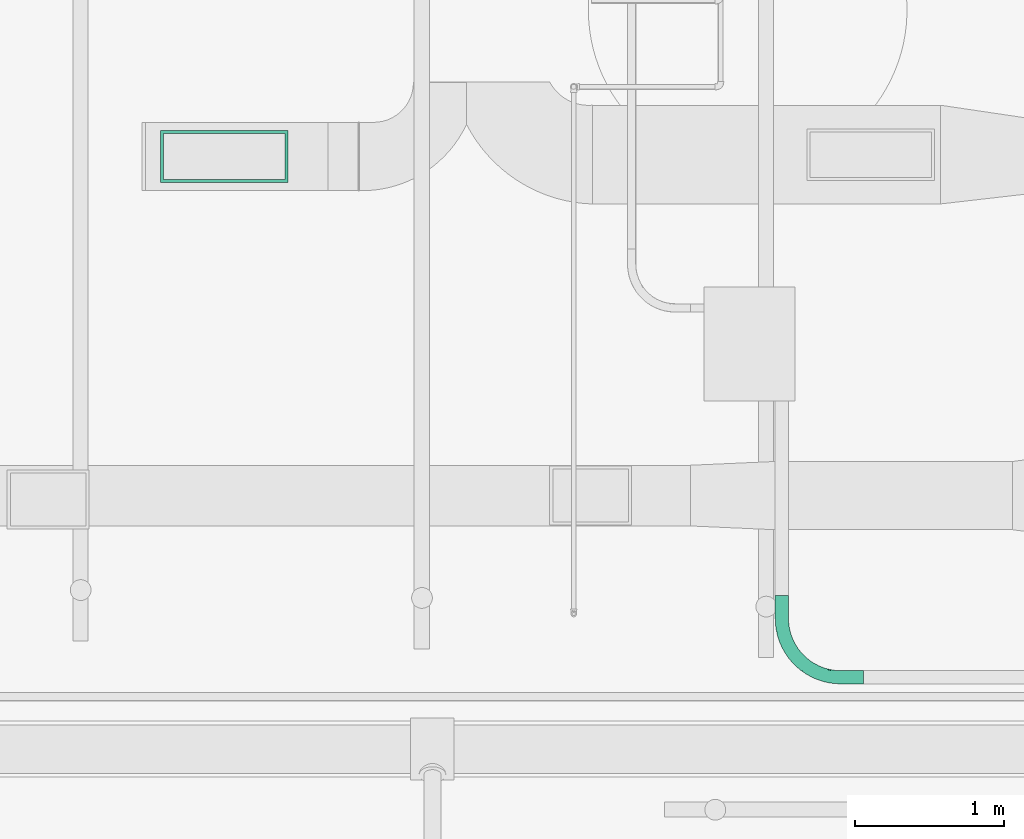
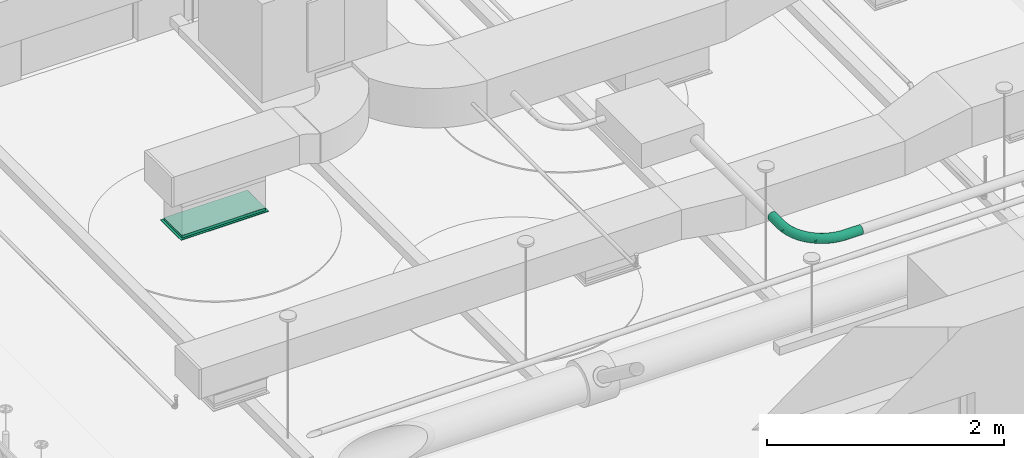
# One storey, part 105 of 108: 1 air terminal, 1 cable carrier fitting.
"""IFC4 building model written with IfcOpenShell, lengths in feet."""

import ifcopenshell
import ifcopenshell.guid

model = None  # the IFC model being written
_history = None  # IfcOwnerHistory: only IFC2X3 demands one
_inside = {}  # id of a spatial element -> (the spatial element, [elements in it])
_under = {}  # id of a project, library or spatial element -> (it, [spatial elements below it])
_declared = {}  # id of a project -> (the project, [libraries it declares])
_typed = {}  # id of a type object -> (the type object, [elements of that type])
_made_of = {}  # id of a material, layer set ... -> (it, [elements and type objects made of it])


def new_model(schema):
    """Start an empty IFC model of exactly this schema.

    Asked for "IFC4X3", IfcOpenShell would pick the latest addendum, in which some entities
    have other attributes; the version numbers below select the first issue.
    IFC2X3 requires an IfcOwnerHistory on every rooted entity: one is made here for all.
    """
    global model, _history
    if schema == "IFC4X3":
        model = ifcopenshell.file(schema_version=(4, 3, 0, 0))
    else:
        model = ifcopenshell.file(schema=schema)
    _inside.clear()
    _under.clear()
    _declared.clear()
    _typed.clear()
    _made_of.clear()
    _history = None
    if model.schema == "IFC2X3":
        org = make("IfcOrganization", Name="unknown")
        user = make(
            "IfcPersonAndOrganization",
            ThePerson=make("IfcPerson", FamilyName="unknown"),
            TheOrganization=org,
        )
        app = make(
            "IfcApplication",
            ApplicationDeveloper=org,
            Version="unknown",
            ApplicationFullName="unknown",
            ApplicationIdentifier="unknown",
        )
        _history = make(
            "IfcOwnerHistory",
            OwningUser=user,
            OwningApplication=app,
            ChangeAction="ADDED",
            CreationDate=0,
        )
    return model


def make(cls, **values):
    """One entity of the class cls with the attributes given. An attribute that is None is left unset."""
    return model.create_entity(
        cls, **{name: value for name, value in values.items() if value is not None}
    )


def entity(cls, *values):
    """Any entity or typed value of the class cls, its attributes in the order of the schema. None: left unset."""
    e = model.create_entity(cls)
    for i, value in enumerate(values):
        if value is not None:
            e[i] = value
    return e


def rooted(cls, **values):
    """An entity with a GlobalId (a new one), such as an element, a storey or a relation."""
    return make(cls, GlobalId=ifcopenshell.guid.new(), OwnerHistory=_history, **values)


def si_unit(unit_type, name, prefix=None):
    """IfcSIUnit, for example si_unit("LENGTHUNIT", "METRE", prefix="MILLI")."""
    return make("IfcSIUnit", UnitType=unit_type, Prefix=prefix, Name=name)


def converted_unit(unit_type, name, factor, base, dimensions=None, offset=None):
    """IfcConversionBasedUnit, such as the inch: factor (a typed value) times the base unit."""
    return make(
        "IfcConversionBasedUnit"
        if offset is None
        else "IfcConversionBasedUnitWithOffset",
        ConversionOffset=offset,
        Dimensions=None
        if dimensions is None
        else entity("IfcDimensionalExponents", *dimensions),
        UnitType=unit_type,
        Name=name,
        ConversionFactor=make(
            "IfcMeasureWithUnit", ValueComponent=factor, UnitComponent=base
        ),
    )


def derived_unit(unit_type, elements):
    """IfcDerivedUnit: a product of units, each with its exponent."""
    return make(
        "IfcDerivedUnit",
        Elements=[
            make("IfcDerivedUnitElement", Unit=unit, Exponent=power)
            for unit, power in elements
        ],
        UnitType=unit_type,
    )


def assignment(units):
    """IfcUnitAssignment: the units of a project."""
    return None if units is None else make("IfcUnitAssignment", Units=units)


def point(xyz):
    """IfcCartesianPoint."""
    return None if xyz is None else make("IfcCartesianPoint", Coordinates=xyz)


def direction(xyz):
    """IfcDirection."""
    return None if xyz is None else make("IfcDirection", DirectionRatios=xyz)


def frame(location, z_axis=None, x_axis=None):
    """IfcAxis2Placement3D, a coordinate frame: its origin and axes. An axis left out is left unset."""
    return make(
        "IfcAxis2Placement3D",
        Location=point(location),
        Axis=direction(z_axis),
        RefDirection=direction(x_axis),
    )


def origin():
    """The frame at (0, 0, 0) with its axes left unset."""
    return frame((0.0, 0.0, 0.0))


def place(relative_to, where):
    """IfcLocalPlacement: puts the frame where relative to a parent placement (None: the world)."""
    return make(
        "IfcLocalPlacement", PlacementRelTo=relative_to, RelativePlacement=where
    )


def context(
    kind, dimensions, precision=None, world=None, true_north=None, identifier=None
):
    """IfcGeometricRepresentationContext, for example the 3D "Model" context."""
    return make(
        "IfcGeometricRepresentationContext",
        ContextIdentifier=identifier,
        ContextType=kind,
        CoordinateSpaceDimension=dimensions,
        Precision=precision,
        WorldCoordinateSystem=world,
        TrueNorth=true_north,
    )


def subcontext(parent, identifier, kind, view, scale=None):
    """IfcGeometricRepresentationSubContext, for example "Body" below "Model"."""
    return make(
        "IfcGeometricRepresentationSubContext",
        ContextIdentifier=identifier,
        ContextType=kind,
        ParentContext=parent,
        TargetScale=scale,
        TargetView=view,
    )


def project(units=None, contexts=None):
    """IfcProject with its units and contexts."""
    return rooted(
        "IfcProject",
        Name="project",
        RepresentationContexts=contexts,
        UnitsInContext=assignment(units),
    )


def spatial(cls, under=None, at=None, **own):
    """A site, building, storey or space (cls), placed at a placement, below another one or the project."""
    s = rooted(cls, ObjectPlacement=at, **own)
    if under is not None:
        _under.setdefault(under.id(), (under, []))[1].append(s)
    return s


def shape(context_of_items, identifier, shape_type, items):
    """IfcShapeRepresentation: the items that make up one representation, for example the "Body"."""
    return make(
        "IfcShapeRepresentation",
        ContextOfItems=context_of_items,
        RepresentationIdentifier=identifier,
        RepresentationType=shape_type,
        Items=items,
    )


def source(mapping_origin, context_of_items, identifier, shape_type, items):
    """IfcRepresentationMap: a shape defined once, which mapped items show again and again."""
    return make(
        "IfcRepresentationMap",
        MappingOrigin=mapping_origin,
        MappedRepresentation=shape(context_of_items, identifier, shape_type, items),
    )


def transform(
    local_origin,
    x_axis=None,
    y_axis=None,
    z_axis=None,
    scale=None,
    scale2=None,
    scale3=None,
    uniform=True,
):
    """IfcCartesianTransformationOperator3D, or its non-uniform kind. x_axis, y_axis, z_axis: its Axis1, 2, 3."""
    if uniform:
        return make(
            "IfcCartesianTransformationOperator3D",
            Axis1=direction(x_axis),
            Axis2=direction(y_axis),
            LocalOrigin=point(local_origin),
            Scale=scale,
            Axis3=direction(z_axis),
        )
    return make(
        "IfcCartesianTransformationOperator3DnonUniform",
        Axis1=direction(x_axis),
        Axis2=direction(y_axis),
        LocalOrigin=point(local_origin),
        Scale=scale,
        Axis3=direction(z_axis),
        Scale2=scale2,
        Scale3=scale3,
    )


def mapped(mapping_source, mapping_target):
    """IfcMappedItem: shows the shape of a source again, moved by a transform."""
    return make(
        "IfcMappedItem", MappingSource=mapping_source, MappingTarget=mapping_target
    )


def made_of(thing, what):
    """Note that an element or type object is made of a material, layer set ...; save() writes the relation."""
    if what is not None:
        _made_of.setdefault(what.id(), (what, []))[1].append(thing)
    return thing


def type_object(cls, material=None, **own):
    """A type object (cls), such as IfcWallType, which elements share."""
    return made_of(rooted(cls, **own), material)


def type_shapes(of_type, sources):
    """Give a type object the sources (RepresentationMaps) that its elements show as mapped items."""
    of_type.RepresentationMaps = sources


def element(
    cls,
    number,
    at=None,
    inside=None,
    cuts=None,
    type_object=None,
    material=None,
    context=None,
    identifier="Body",
    shape_type=None,
    held_by="IfcProductDefinitionShape",
    body=None,
    shapes=None,
    **own,
):
    """One element of the class cls, such as IfcWall. Its Tag is "e" and its number.

    at: its placement. inside: the storey or other place that contains it. cuts: it is an
    opening in that element (IfcRelVoidsElement). A single representation is given by context,
    identifier, shape_type and body (its items); several are given by shapes. held_by: the class
    of the entity that holds the representations. save() writes the other relations.
    """
    e = rooted(cls, Tag="e%d" % number, ObjectPlacement=at, **own)
    if body is not None:
        shapes = [shape(context, identifier, shape_type, body)]
    if shapes is not None:
        e.Representation = make(held_by, Representations=shapes)
    if inside is not None:
        _inside.setdefault(inside.id(), (inside, []))[1].append(e)
    if cuts is not None:
        rooted(
            "IfcRelVoidsElement", RelatingBuildingElement=cuts, RelatedOpeningElement=e
        )
    if type_object is not None:
        _typed.setdefault(type_object.id(), (type_object, []))[1].append(e)
    return made_of(e, material)


def aggregate(whole, parts):
    """IfcRelAggregates: a whole, such as a stair, and the parts it consists of."""
    return rooted("IfcRelAggregates", RelatingObject=whole, RelatedObjects=parts)


def save(model, path):
    """Write the relations noted so far, then the file.

    IfcRelAggregates (storeys below a building ...), IfcRelContainedInSpatialStructure (elements
    in a storey), IfcRelDefinesByType, IfcRelAssociatesMaterial and IfcRelDeclares: one each for
    every whole, place, type object, material and project.
    """
    for whole, parts in _under.values():
        aggregate(whole, parts)
    for where, things in _inside.values():
        rooted(
            "IfcRelContainedInSpatialStructure",
            RelatedElements=things,
            RelatingStructure=where,
        )
    for kind, things in _typed.values():
        rooted("IfcRelDefinesByType", RelatedObjects=things, RelatingType=kind)
    for what, things in _made_of.values():
        rooted("IfcRelAssociatesMaterial", RelatedObjects=things, RelatingMaterial=what)
    for by, libraries in _declared.values():
        rooted("IfcRelDeclares", RelatingContext=by, RelatedDefinitions=libraries)
    model.write(path)


model = new_model("IFC4")

# Units and contexts
model_context = context("Model", 3, precision=0.0001, world=origin(), true_north=direction((6.12303176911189e-17, 1.0)))
body_context = subcontext(model_context, "Body", "Model", "MODEL_VIEW")
ifc_project = project(units=[converted_unit("LENGTHUNIT", "FOOT", entity("IfcRatioMeasure", 0.3048), si_unit("LENGTHUNIT", "METRE"), dimensions=[1, 0, 0, 0, 0, 0, 0]), converted_unit("AREAUNIT", "SQUARE FOOT", entity("IfcRatioMeasure", 0.09290304), si_unit("AREAUNIT", "SQUARE_METRE"), dimensions=[2, 0, 0, 0, 0, 0, 0]), converted_unit("VOLUMEUNIT", "CUBIC FOOT", entity("IfcRatioMeasure", 0.028316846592), si_unit("VOLUMEUNIT", "CUBIC_METRE"), dimensions=[3, 0, 0, 0, 0, 0, 0]), converted_unit("PLANEANGLEUNIT", "DEGREE", entity("IfcRatioMeasure", 0.0174532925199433), si_unit("PLANEANGLEUNIT", "RADIAN"), dimensions=[0, 0, 0, 0, 0, 0, 0]), si_unit("MASSUNIT", "GRAM", prefix="KILO"), derived_unit("MASSDENSITYUNIT", [(si_unit("MASSUNIT", "GRAM", prefix="KILO"), 1), (si_unit("LENGTHUNIT", "METRE"), -3)]), si_unit("TIMEUNIT", "SECOND"), si_unit("FREQUENCYUNIT", "HERTZ"), si_unit("THERMODYNAMICTEMPERATUREUNIT", "DEGREE_CELSIUS"), derived_unit("THERMALTRANSMITTANCEUNIT", [(si_unit("MASSUNIT", "GRAM", prefix="KILO"), 1), (si_unit("THERMODYNAMICTEMPERATUREUNIT", "KELVIN"), -1), (si_unit("TIMEUNIT", "SECOND"), -3)]), derived_unit("VOLUMETRICFLOWRATEUNIT", [(si_unit("LENGTHUNIT", "METRE"), 3), (si_unit("TIMEUNIT", "SECOND"), -1)]), si_unit("ELECTRICCURRENTUNIT", "AMPERE"), si_unit("ELECTRICVOLTAGEUNIT", "VOLT"), si_unit("POWERUNIT", "WATT"), si_unit("FORCEUNIT", "NEWTON"), si_unit("ILLUMINANCEUNIT", "LUX"), si_unit("LUMINOUSFLUXUNIT", "LUMEN"), si_unit("LUMINOUSINTENSITYUNIT", "CANDELA"), derived_unit("USERDEFINED", [(si_unit("MASSUNIT", "GRAM", prefix="KILO"), -1), (si_unit("LENGTHUNIT", "METRE"), -2), (si_unit("TIMEUNIT", "SECOND"), 3), (si_unit("LUMINOUSFLUXUNIT", "LUMEN"), 1)]), derived_unit("LINEARVELOCITYUNIT", [(si_unit("LENGTHUNIT", "METRE"), 1), (si_unit("TIMEUNIT", "SECOND"), -1)]), si_unit("PRESSUREUNIT", "PASCAL"), derived_unit("USERDEFINED", [(si_unit("LENGTHUNIT", "METRE"), -2), (si_unit("MASSUNIT", "GRAM", prefix="KILO"), 1), (si_unit("TIMEUNIT", "SECOND"), -2)])], contexts=[model_context])

# Site, building, storey
site_placement = place(None, origin())
site = spatial("IfcSite", under=ifc_project, at=site_placement, Name="Default", CompositionType="ELEMENT")
building_placement = place(site_placement, origin())
building = spatial("IfcBuilding", under=site, at=building_placement, CompositionType="ELEMENT")
storey_placement = place(building_placement, frame((0.0, 0.0, 168.0)))
storey = spatial("IfcBuildingStorey", under=building, at=storey_placement, Name="Level 15", CompositionType="ELEMENT", Elevation=168.0)

# Air terminal
air_terminal_type = type_object("IfcAirTerminalType", Name="32x12", PredefinedType="NOTDEFINED")
cartesian_point_1 = entity("IfcCartesianPoint", [1.40104166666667, 0.015625, 0.567708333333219])
vertex_point_1 = entity("IfcVertexPoint", cartesian_point_1)
cartesian_point_2 = entity("IfcCartesianPoint", [1.40104166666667, 0.015625, -0.567708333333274])
vertex_point_2 = entity("IfcVertexPoint", cartesian_point_2)
ifc_direction_1 = entity("IfcDirection", [0.0, 0.0, -1.0])
edge_curve_1 = entity("IfcEdgeCurve", vertex_point_1, vertex_point_2, entity("IfcTrimmedCurve", entity("IfcLine", cartesian_point_1, entity("IfcVector", ifc_direction_1, 1.0)), [cartesian_point_1], [cartesian_point_2], True, "CARTESIAN"), True)
cartesian_point_3 = entity("IfcCartesianPoint", [-1.40104166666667, 0.015625, -0.567708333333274])
vertex_point_3 = entity("IfcVertexPoint", cartesian_point_3)
ifc_direction_2 = entity("IfcDirection", [-1.0, 0.0, 0.0])
edge_curve_2 = entity("IfcEdgeCurve", vertex_point_2, vertex_point_3, entity("IfcTrimmedCurve", entity("IfcLine", cartesian_point_2, entity("IfcVector", ifc_direction_2, 1.0)), [cartesian_point_2], [cartesian_point_3], True, "CARTESIAN"), True)
cartesian_point_4 = entity("IfcCartesianPoint", [-1.40104166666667, 0.015625, 0.567708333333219])
vertex_point_4 = entity("IfcVertexPoint", cartesian_point_4)
ifc_direction_3 = entity("IfcDirection", [0.0, 0.0, 1.0])
edge_curve_3 = entity("IfcEdgeCurve", vertex_point_3, vertex_point_4, entity("IfcTrimmedCurve", entity("IfcLine", cartesian_point_3, entity("IfcVector", ifc_direction_3, 1.0)), [cartesian_point_3], [cartesian_point_4], True, "CARTESIAN"), True)
ifc_direction_4 = entity("IfcDirection", [1.0, 0.0, 0.0])
edge_curve_4 = entity("IfcEdgeCurve", vertex_point_4, vertex_point_1, entity("IfcTrimmedCurve", entity("IfcLine", cartesian_point_4, entity("IfcVector", ifc_direction_4, 1.0)), [cartesian_point_4], [cartesian_point_1], True, "CARTESIAN"), True)
ifc_direction_5 = entity("IfcDirection", [0.0, 1.0, 0.0])
cartesian_point_5 = entity("IfcCartesianPoint", [1.40104166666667, 0.0, 0.567708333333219])
vertex_point_5 = entity("IfcVertexPoint", cartesian_point_5)
cartesian_point_6 = entity("IfcCartesianPoint", [-1.40104166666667, 0.0, 0.567708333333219])
vertex_point_6 = entity("IfcVertexPoint", cartesian_point_6)
edge_curve_5 = entity("IfcEdgeCurve", vertex_point_5, vertex_point_6, entity("IfcTrimmedCurve", entity("IfcLine", cartesian_point_5, entity("IfcVector", ifc_direction_2, 1.0)), [cartesian_point_5], [cartesian_point_6], True, "CARTESIAN"), True)
cartesian_point_7 = entity("IfcCartesianPoint", [-1.40104166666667, 0.0, -0.567708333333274])
vertex_point_7 = entity("IfcVertexPoint", cartesian_point_7)
edge_curve_6 = entity("IfcEdgeCurve", vertex_point_6, vertex_point_7, entity("IfcTrimmedCurve", entity("IfcLine", cartesian_point_6, entity("IfcVector", ifc_direction_1, 1.0)), [cartesian_point_6], [cartesian_point_7], True, "CARTESIAN"), True)
cartesian_point_8 = entity("IfcCartesianPoint", [1.40104166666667, 0.0, -0.567708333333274])
vertex_point_8 = entity("IfcVertexPoint", cartesian_point_8)
edge_curve_7 = entity("IfcEdgeCurve", vertex_point_7, vertex_point_8, entity("IfcTrimmedCurve", entity("IfcLine", cartesian_point_7, entity("IfcVector", ifc_direction_4, 1.0)), [cartesian_point_7], [cartesian_point_8], True, "CARTESIAN"), True)
edge_curve_8 = entity("IfcEdgeCurve", vertex_point_8, vertex_point_5, entity("IfcTrimmedCurve", entity("IfcLine", cartesian_point_8, entity("IfcVector", ifc_direction_3, 1.0)), [cartesian_point_8], [cartesian_point_5], True, "CARTESIAN"), True)
cartesian_point_9 = entity("IfcCartesianPoint", [-1.33333333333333, 0.0, 0.5])
vertex_point_9 = entity("IfcVertexPoint", cartesian_point_9)
cartesian_point_10 = entity("IfcCartesianPoint", [1.33333333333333, 0.0, 0.5])
vertex_point_10 = entity("IfcVertexPoint", cartesian_point_10)
edge_curve_9 = entity("IfcEdgeCurve", vertex_point_9, vertex_point_10, entity("IfcTrimmedCurve", entity("IfcLine", cartesian_point_9, entity("IfcVector", ifc_direction_4, 1.0)), [cartesian_point_9], [cartesian_point_10], True, "CARTESIAN"), True)
cartesian_point_11 = entity("IfcCartesianPoint", [1.33333333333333, 0.0, -0.5])
vertex_point_11 = entity("IfcVertexPoint", cartesian_point_11)
edge_curve_10 = entity("IfcEdgeCurve", vertex_point_10, vertex_point_11, entity("IfcTrimmedCurve", entity("IfcLine", cartesian_point_10, entity("IfcVector", ifc_direction_1, 1.0)), [cartesian_point_10], [cartesian_point_11], True, "CARTESIAN"), True)
cartesian_point_12 = entity("IfcCartesianPoint", [-1.33333333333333, 0.0, -0.5])
vertex_point_12 = entity("IfcVertexPoint", cartesian_point_12)
edge_curve_11 = entity("IfcEdgeCurve", vertex_point_11, vertex_point_12, entity("IfcTrimmedCurve", entity("IfcLine", cartesian_point_11, entity("IfcVector", ifc_direction_2, 1.0)), [cartesian_point_11], [cartesian_point_12], True, "CARTESIAN"), True)
edge_curve_12 = entity("IfcEdgeCurve", vertex_point_12, vertex_point_9, entity("IfcTrimmedCurve", entity("IfcLine", cartesian_point_12, entity("IfcVector", ifc_direction_3, 1.0)), [cartesian_point_12], [cartesian_point_9], True, "CARTESIAN"), True)
ifc_direction_6 = entity("IfcDirection", [0.0, -1.0, 0.0])
edge_curve_13 = entity("IfcEdgeCurve", vertex_point_4, vertex_point_6, entity("IfcTrimmedCurve", entity("IfcLine", cartesian_point_6, entity("IfcVector", ifc_direction_6, 1.0)), [cartesian_point_4], [cartesian_point_6], True, "CARTESIAN"), True)
edge_curve_14 = entity("IfcEdgeCurve", vertex_point_5, vertex_point_1, entity("IfcTrimmedCurve", entity("IfcLine", cartesian_point_5, entity("IfcVector", ifc_direction_5, 1.0)), [cartesian_point_5], [cartesian_point_1], True, "CARTESIAN"), True)
edge_curve_15 = entity("IfcEdgeCurve", vertex_point_3, vertex_point_7, entity("IfcTrimmedCurve", entity("IfcLine", cartesian_point_7, entity("IfcVector", ifc_direction_6, 1.0)), [cartesian_point_3], [cartesian_point_7], True, "CARTESIAN"), True)
edge_curve_16 = entity("IfcEdgeCurve", vertex_point_2, vertex_point_8, entity("IfcTrimmedCurve", entity("IfcLine", cartesian_point_8, entity("IfcVector", ifc_direction_6, 1.0)), [cartesian_point_2], [cartesian_point_8], True, "CARTESIAN"), True)
cartesian_point_13 = entity("IfcCartesianPoint", [-1.33333333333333, -0.08984375, 0.5])
vertex_point_13 = entity("IfcVertexPoint", cartesian_point_13)
cartesian_point_14 = entity("IfcCartesianPoint", [-1.33333333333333, -0.08984375, -0.5])
vertex_point_14 = entity("IfcVertexPoint", cartesian_point_14)
edge_curve_17 = entity("IfcEdgeCurve", vertex_point_13, vertex_point_14, entity("IfcTrimmedCurve", entity("IfcLine", cartesian_point_13, entity("IfcVector", ifc_direction_1, 1.0)), [cartesian_point_13], [cartesian_point_14], True, "CARTESIAN"), True)
cartesian_point_15 = entity("IfcCartesianPoint", [1.33333333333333, -0.08984375, -0.5])
vertex_point_15 = entity("IfcVertexPoint", cartesian_point_15)
edge_curve_18 = entity("IfcEdgeCurve", vertex_point_14, vertex_point_15, entity("IfcTrimmedCurve", entity("IfcLine", cartesian_point_14, entity("IfcVector", ifc_direction_4, 1.0)), [cartesian_point_14], [cartesian_point_15], True, "CARTESIAN"), True)
cartesian_point_16 = entity("IfcCartesianPoint", [1.33333333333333, -0.08984375, 0.5])
vertex_point_16 = entity("IfcVertexPoint", cartesian_point_16)
edge_curve_19 = entity("IfcEdgeCurve", vertex_point_15, vertex_point_16, entity("IfcTrimmedCurve", entity("IfcLine", cartesian_point_15, entity("IfcVector", ifc_direction_3, 1.0)), [cartesian_point_15], [cartesian_point_16], True, "CARTESIAN"), True)
edge_curve_20 = entity("IfcEdgeCurve", vertex_point_16, vertex_point_13, entity("IfcTrimmedCurve", entity("IfcLine", cartesian_point_16, entity("IfcVector", ifc_direction_2, 1.0)), [cartesian_point_16], [cartesian_point_13], True, "CARTESIAN"), True)
cartesian_point_17 = entity("IfcCartesianPoint", [-1.3125, -0.08984375, 0.479166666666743])
vertex_point_17 = entity("IfcVertexPoint", cartesian_point_17)
cartesian_point_18 = entity("IfcCartesianPoint", [1.3125, -0.08984375, 0.479166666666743])
vertex_point_18 = entity("IfcVertexPoint", cartesian_point_18)
edge_curve_21 = entity("IfcEdgeCurve", vertex_point_17, vertex_point_18, entity("IfcTrimmedCurve", entity("IfcLine", cartesian_point_17, entity("IfcVector", ifc_direction_4, 1.0)), [cartesian_point_17], [cartesian_point_18], True, "CARTESIAN"), True)
cartesian_point_19 = entity("IfcCartesianPoint", [1.3125, -0.08984375, -0.479166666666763])
vertex_point_19 = entity("IfcVertexPoint", cartesian_point_19)
edge_curve_22 = entity("IfcEdgeCurve", vertex_point_18, vertex_point_19, entity("IfcTrimmedCurve", entity("IfcLine", cartesian_point_18, entity("IfcVector", ifc_direction_1, 1.0)), [cartesian_point_18], [cartesian_point_19], True, "CARTESIAN"), True)
cartesian_point_20 = entity("IfcCartesianPoint", [-1.3125, -0.08984375, -0.479166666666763])
vertex_point_20 = entity("IfcVertexPoint", cartesian_point_20)
edge_curve_23 = entity("IfcEdgeCurve", vertex_point_19, vertex_point_20, entity("IfcTrimmedCurve", entity("IfcLine", cartesian_point_19, entity("IfcVector", ifc_direction_2, 1.0)), [cartesian_point_19], [cartesian_point_20], True, "CARTESIAN"), True)
edge_curve_24 = entity("IfcEdgeCurve", vertex_point_20, vertex_point_17, entity("IfcTrimmedCurve", entity("IfcLine", cartesian_point_20, entity("IfcVector", ifc_direction_3, 1.0)), [cartesian_point_20], [cartesian_point_17], True, "CARTESIAN"), True)
edge_curve_25 = entity("IfcEdgeCurve", vertex_point_13, vertex_point_9, entity("IfcTrimmedCurve", entity("IfcLine", cartesian_point_13, entity("IfcVector", ifc_direction_5, 1.0)), [cartesian_point_13], [cartesian_point_9], True, "CARTESIAN"), True)
edge_curve_26 = entity("IfcEdgeCurve", vertex_point_12, vertex_point_14, entity("IfcTrimmedCurve", entity("IfcLine", cartesian_point_14, entity("IfcVector", ifc_direction_6, 1.0)), [cartesian_point_12], [cartesian_point_14], True, "CARTESIAN"), True)
edge_curve_27 = entity("IfcEdgeCurve", vertex_point_11, vertex_point_15, entity("IfcTrimmedCurve", entity("IfcLine", cartesian_point_15, entity("IfcVector", ifc_direction_6, 1.0)), [cartesian_point_11], [cartesian_point_15], True, "CARTESIAN"), True)
edge_curve_28 = entity("IfcEdgeCurve", vertex_point_10, vertex_point_16, entity("IfcTrimmedCurve", entity("IfcLine", cartesian_point_16, entity("IfcVector", ifc_direction_6, 1.0)), [cartesian_point_10], [cartesian_point_16], True, "CARTESIAN"), True)
cartesian_point_21 = entity("IfcCartesianPoint", [-1.3125, -0.0911458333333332, 0.479166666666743])
vertex_point_21 = entity("IfcVertexPoint", cartesian_point_21)
cartesian_point_22 = entity("IfcCartesianPoint", [-1.3125, -0.0911458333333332, -0.479166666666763])
vertex_point_22 = entity("IfcVertexPoint", cartesian_point_22)
edge_curve_29 = entity("IfcEdgeCurve", vertex_point_21, vertex_point_22, entity("IfcTrimmedCurve", entity("IfcLine", cartesian_point_21, entity("IfcVector", ifc_direction_1, 1.0)), [cartesian_point_21], [cartesian_point_22], True, "CARTESIAN"), True)
cartesian_point_23 = entity("IfcCartesianPoint", [1.3125, -0.0911458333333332, -0.479166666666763])
vertex_point_23 = entity("IfcVertexPoint", cartesian_point_23)
edge_curve_30 = entity("IfcEdgeCurve", vertex_point_22, vertex_point_23, entity("IfcTrimmedCurve", entity("IfcLine", cartesian_point_22, entity("IfcVector", ifc_direction_4, 1.0)), [cartesian_point_22], [cartesian_point_23], True, "CARTESIAN"), True)
cartesian_point_24 = entity("IfcCartesianPoint", [1.3125, -0.0911458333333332, 0.479166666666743])
vertex_point_24 = entity("IfcVertexPoint", cartesian_point_24)
edge_curve_31 = entity("IfcEdgeCurve", vertex_point_23, vertex_point_24, entity("IfcTrimmedCurve", entity("IfcLine", cartesian_point_23, entity("IfcVector", ifc_direction_3, 1.0)), [cartesian_point_23], [cartesian_point_24], True, "CARTESIAN"), True)
edge_curve_32 = entity("IfcEdgeCurve", vertex_point_24, vertex_point_21, entity("IfcTrimmedCurve", entity("IfcLine", cartesian_point_24, entity("IfcVector", ifc_direction_2, 1.0)), [cartesian_point_24], [cartesian_point_21], True, "CARTESIAN"), True)
edge_curve_33 = entity("IfcEdgeCurve", vertex_point_21, vertex_point_17, entity("IfcTrimmedCurve", entity("IfcLine", cartesian_point_21, entity("IfcVector", ifc_direction_5, 1.0)), [cartesian_point_21], [cartesian_point_17], True, "CARTESIAN"), True)
edge_curve_34 = entity("IfcEdgeCurve", vertex_point_20, vertex_point_22, entity("IfcTrimmedCurve", entity("IfcLine", cartesian_point_22, entity("IfcVector", ifc_direction_6, 1.0)), [cartesian_point_20], [cartesian_point_22], True, "CARTESIAN"), True)
edge_curve_35 = entity("IfcEdgeCurve", vertex_point_19, vertex_point_23, entity("IfcTrimmedCurve", entity("IfcLine", cartesian_point_23, entity("IfcVector", ifc_direction_6, 1.0)), [cartesian_point_19], [cartesian_point_23], True, "CARTESIAN"), True)
edge_curve_36 = entity("IfcEdgeCurve", vertex_point_18, vertex_point_24, entity("IfcTrimmedCurve", entity("IfcLine", cartesian_point_24, entity("IfcVector", ifc_direction_6, 1.0)), [cartesian_point_18], [cartesian_point_24], True, "CARTESIAN"), True)
shared_shape_1 = source(origin(), body_context, "Body", "AdvancedBrep", [
    entity("IfcAdvancedBrep", entity("IfcClosedShell", [entity("IfcAdvancedFace", [entity("IfcFaceOuterBound", entity("IfcEdgeLoop", [entity("IfcOrientedEdge", None, None, edge_curve_1, True), entity("IfcOrientedEdge", None, None, edge_curve_2, True), entity("IfcOrientedEdge", None, None, edge_curve_3, True), entity("IfcOrientedEdge", None, None, edge_curve_4, True)]), True)], entity("IfcPlane", entity("IfcAxis2Placement3D", cartesian_point_4, ifc_direction_5, ifc_direction_2)), True), entity("IfcAdvancedFace", [entity("IfcFaceOuterBound", entity("IfcEdgeLoop", [entity("IfcOrientedEdge", None, None, edge_curve_5, True), entity("IfcOrientedEdge", None, None, edge_curve_6, True), entity("IfcOrientedEdge", None, None, edge_curve_7, True), entity("IfcOrientedEdge", None, None, edge_curve_8, True)]), True), entity("IfcFaceBound", entity("IfcEdgeLoop", [entity("IfcOrientedEdge", None, None, edge_curve_9, True), entity("IfcOrientedEdge", None, None, edge_curve_10, True), entity("IfcOrientedEdge", None, None, edge_curve_11, True), entity("IfcOrientedEdge", None, None, edge_curve_12, True)]), False)], entity("IfcPlane", entity("IfcAxis2Placement3D", cartesian_point_6, ifc_direction_6, ifc_direction_4)), True), entity("IfcAdvancedFace", [entity("IfcFaceOuterBound", entity("IfcEdgeLoop", [entity("IfcOrientedEdge", None, None, edge_curve_13, True), entity("IfcOrientedEdge", None, None, edge_curve_5, False), entity("IfcOrientedEdge", None, None, edge_curve_14, True), entity("IfcOrientedEdge", None, None, edge_curve_4, False)]), True)], entity("IfcPlane", entity("IfcAxis2Placement3D", cartesian_point_1, ifc_direction_3, ifc_direction_6)), True), entity("IfcAdvancedFace", [entity("IfcFaceOuterBound", entity("IfcEdgeLoop", [entity("IfcOrientedEdge", None, None, edge_curve_15, True), entity("IfcOrientedEdge", None, None, edge_curve_6, False), entity("IfcOrientedEdge", None, None, edge_curve_13, False), entity("IfcOrientedEdge", None, None, edge_curve_3, False)]), True)], entity("IfcPlane", entity("IfcAxis2Placement3D", cartesian_point_4, ifc_direction_2, ifc_direction_6)), True), entity("IfcAdvancedFace", [entity("IfcFaceOuterBound", entity("IfcEdgeLoop", [entity("IfcOrientedEdge", None, None, edge_curve_16, True), entity("IfcOrientedEdge", None, None, edge_curve_7, False), entity("IfcOrientedEdge", None, None, edge_curve_15, False), entity("IfcOrientedEdge", None, None, edge_curve_2, False)]), True)], entity("IfcPlane", entity("IfcAxis2Placement3D", cartesian_point_3, ifc_direction_1, ifc_direction_6)), True), entity("IfcAdvancedFace", [entity("IfcFaceOuterBound", entity("IfcEdgeLoop", [entity("IfcOrientedEdge", None, None, edge_curve_14, False), entity("IfcOrientedEdge", None, None, edge_curve_8, False), entity("IfcOrientedEdge", None, None, edge_curve_16, False), entity("IfcOrientedEdge", None, None, edge_curve_1, False)]), True)], entity("IfcPlane", entity("IfcAxis2Placement3D", cartesian_point_2, ifc_direction_4, ifc_direction_6)), True), entity("IfcAdvancedFace", [entity("IfcFaceOuterBound", entity("IfcEdgeLoop", [entity("IfcOrientedEdge", None, None, edge_curve_17, True), entity("IfcOrientedEdge", None, None, edge_curve_18, True), entity("IfcOrientedEdge", None, None, edge_curve_19, True), entity("IfcOrientedEdge", None, None, edge_curve_20, True)]), True), entity("IfcFaceBound", entity("IfcEdgeLoop", [entity("IfcOrientedEdge", None, None, edge_curve_21, True), entity("IfcOrientedEdge", None, None, edge_curve_22, True), entity("IfcOrientedEdge", None, None, edge_curve_23, True), entity("IfcOrientedEdge", None, None, edge_curve_24, True)]), False)], entity("IfcPlane", entity("IfcAxis2Placement3D", cartesian_point_13, ifc_direction_6, ifc_direction_3)), True), entity("IfcAdvancedFace", [entity("IfcFaceOuterBound", entity("IfcEdgeLoop", [entity("IfcOrientedEdge", None, None, edge_curve_25, True), entity("IfcOrientedEdge", None, None, edge_curve_12, False), entity("IfcOrientedEdge", None, None, edge_curve_26, True), entity("IfcOrientedEdge", None, None, edge_curve_17, False)]), True)], entity("IfcPlane", entity("IfcAxis2Placement3D", cartesian_point_9, ifc_direction_2, ifc_direction_6)), True), entity("IfcAdvancedFace", [entity("IfcFaceOuterBound", entity("IfcEdgeLoop", [entity("IfcOrientedEdge", None, None, edge_curve_26, False), entity("IfcOrientedEdge", None, None, edge_curve_11, False), entity("IfcOrientedEdge", None, None, edge_curve_27, True), entity("IfcOrientedEdge", None, None, edge_curve_18, False)]), True)], entity("IfcPlane", entity("IfcAxis2Placement3D", cartesian_point_12, ifc_direction_1, ifc_direction_6)), True), entity("IfcAdvancedFace", [entity("IfcFaceOuterBound", entity("IfcEdgeLoop", [entity("IfcOrientedEdge", None, None, edge_curve_27, False), entity("IfcOrientedEdge", None, None, edge_curve_10, False), entity("IfcOrientedEdge", None, None, edge_curve_28, True), entity("IfcOrientedEdge", None, None, edge_curve_19, False)]), True)], entity("IfcPlane", entity("IfcAxis2Placement3D", cartesian_point_11, ifc_direction_4, ifc_direction_6)), True), entity("IfcAdvancedFace", [entity("IfcFaceOuterBound", entity("IfcEdgeLoop", [entity("IfcOrientedEdge", None, None, edge_curve_28, False), entity("IfcOrientedEdge", None, None, edge_curve_9, False), entity("IfcOrientedEdge", None, None, edge_curve_25, False), entity("IfcOrientedEdge", None, None, edge_curve_20, False)]), True)], entity("IfcPlane", entity("IfcAxis2Placement3D", cartesian_point_10, ifc_direction_3, ifc_direction_6)), True), entity("IfcAdvancedFace", [entity("IfcFaceOuterBound", entity("IfcEdgeLoop", [entity("IfcOrientedEdge", None, None, edge_curve_29, True), entity("IfcOrientedEdge", None, None, edge_curve_30, True), entity("IfcOrientedEdge", None, None, edge_curve_31, True), entity("IfcOrientedEdge", None, None, edge_curve_32, True)]), True)], entity("IfcPlane", entity("IfcAxis2Placement3D", cartesian_point_21, ifc_direction_6, ifc_direction_3)), True), entity("IfcAdvancedFace", [entity("IfcFaceOuterBound", entity("IfcEdgeLoop", [entity("IfcOrientedEdge", None, None, edge_curve_33, True), entity("IfcOrientedEdge", None, None, edge_curve_24, False), entity("IfcOrientedEdge", None, None, edge_curve_34, True), entity("IfcOrientedEdge", None, None, edge_curve_29, False)]), True)], entity("IfcPlane", entity("IfcAxis2Placement3D", cartesian_point_17, ifc_direction_2, ifc_direction_6)), True), entity("IfcAdvancedFace", [entity("IfcFaceOuterBound", entity("IfcEdgeLoop", [entity("IfcOrientedEdge", None, None, edge_curve_34, False), entity("IfcOrientedEdge", None, None, edge_curve_23, False), entity("IfcOrientedEdge", None, None, edge_curve_35, True), entity("IfcOrientedEdge", None, None, edge_curve_30, False)]), True)], entity("IfcPlane", entity("IfcAxis2Placement3D", cartesian_point_20, ifc_direction_1, ifc_direction_6)), True), entity("IfcAdvancedFace", [entity("IfcFaceOuterBound", entity("IfcEdgeLoop", [entity("IfcOrientedEdge", None, None, edge_curve_35, False), entity("IfcOrientedEdge", None, None, edge_curve_22, False), entity("IfcOrientedEdge", None, None, edge_curve_36, True), entity("IfcOrientedEdge", None, None, edge_curve_31, False)]), True)], entity("IfcPlane", entity("IfcAxis2Placement3D", cartesian_point_19, ifc_direction_4, ifc_direction_6)), True), entity("IfcAdvancedFace", [entity("IfcFaceOuterBound", entity("IfcEdgeLoop", [entity("IfcOrientedEdge", None, None, edge_curve_36, False), entity("IfcOrientedEdge", None, None, edge_curve_21, False), entity("IfcOrientedEdge", None, None, edge_curve_33, False), entity("IfcOrientedEdge", None, None, edge_curve_32, False)]), True)], entity("IfcPlane", entity("IfcAxis2Placement3D", cartesian_point_18, ifc_direction_3, ifc_direction_6)), True)])),
])
type_shapes(air_terminal_type, [shared_shape_1])
air_terminal_placement = place(storey_placement, frame((-44.4096196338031, -3.73329294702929, 8.5625), z_axis=(0.0, 1.0, 0.0), x_axis=(1.0, 0.0, 0.0)))
element("IfcAirTerminal", 1, at=air_terminal_placement, inside=storey, type_object=air_terminal_type, Name="Supply Diffuser - Sidewall:32x12", ObjectType="Supply Diffuser - Sidewall:32x12", PredefinedType="NOTDEFINED", context=body_context, shape_type="MappedRepresentation", body=[
    mapped(shared_shape_1, transform((0.0, 0.0, 0.0), scale=1.0)),
])

# Cable carrier fitting
cable_carrier_fitting_type = type_object("IfcCableCarrierFittingType", Name="Standard", PredefinedType="NOTDEFINED")
cartesian_point_25 = entity("IfcCartesianPoint", [-1.79166666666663, -0.145833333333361, 0.0])
vertex_point_25 = entity("IfcVertexPoint", cartesian_point_25)
cartesian_point_26 = entity("IfcCartesianPoint", [-1.79166666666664, 0.145833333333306, 0.0])
vertex_point_26 = entity("IfcVertexPoint", cartesian_point_26)
cartesian_point_27 = entity("IfcCartesianPoint", [-1.79166666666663, 0.0, 0.0])
ifc_direction_7 = entity("IfcDirection", [-1.0, 0.0, 0.0])
ifc_direction_8 = entity("IfcDirection", [0.0, 1.0, 0.0])
edge_curve_37 = entity("IfcEdgeCurve", vertex_point_25, vertex_point_26, entity("IfcTrimmedCurve", entity("IfcCircle", entity("IfcAxis2Placement3D", cartesian_point_27, ifc_direction_7, ifc_direction_8), 0.145833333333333), [cartesian_point_25], [cartesian_point_26], True, "CARTESIAN"), True)
edge_curve_38 = entity("IfcEdgeCurve", vertex_point_26, vertex_point_25, entity("IfcTrimmedCurve", entity("IfcCircle", entity("IfcAxis2Placement3D", cartesian_point_27, ifc_direction_7, ifc_direction_8), 0.145833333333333), [cartesian_point_26], [cartesian_point_25], True, "CARTESIAN"), True)
ifc_direction_9 = entity("IfcDirection", [0.0, 0.0, 1.0])
cartesian_point_28 = entity("IfcCartesianPoint", [-1.29166666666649, -0.145833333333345, 0.0])
vertex_point_27 = entity("IfcVertexPoint", cartesian_point_28)
edge_curve_39 = entity("IfcEdgeCurve", vertex_point_25, vertex_point_27, entity("IfcTrimmedCurve", entity("IfcLine", cartesian_point_25, entity("IfcVector", entity("IfcDirection", [1.0, 0.0, 0.0]), 1.0)), [cartesian_point_25], [cartesian_point_28], True, "CARTESIAN"), True)
cartesian_point_29 = entity("IfcCartesianPoint", [-1.29166666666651, 0.145833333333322, 0.0])
vertex_point_28 = entity("IfcVertexPoint", cartesian_point_29)
cartesian_point_30 = entity("IfcCartesianPoint", [-1.29166666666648, 0.0, 0.0])
edge_curve_40 = entity("IfcEdgeCurve", vertex_point_27, vertex_point_28, entity("IfcTrimmedCurve", entity("IfcCircle", entity("IfcAxis2Placement3D", cartesian_point_30, ifc_direction_7, ifc_direction_8), 0.145833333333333), [cartesian_point_28], [cartesian_point_29], True, "CARTESIAN"), True)
edge_curve_41 = entity("IfcEdgeCurve", vertex_point_28, vertex_point_26, entity("IfcTrimmedCurve", entity("IfcLine", cartesian_point_26, entity("IfcVector", ifc_direction_7, 1.0)), [cartesian_point_29], [cartesian_point_26], True, "CARTESIAN"), True)
edge_curve_42 = entity("IfcEdgeCurve", vertex_point_28, vertex_point_27, entity("IfcTrimmedCurve", entity("IfcCircle", entity("IfcAxis2Placement3D", cartesian_point_30, ifc_direction_7, ifc_direction_8), 0.145833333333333), [cartesian_point_29], [cartesian_point_28], True, "CARTESIAN"), True)
cartesian_point_31 = entity("IfcCartesianPoint", [-0.145833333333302, 1.29166666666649, 0.0])
vertex_point_29 = entity("IfcVertexPoint", cartesian_point_31)
cartesian_point_32 = entity("IfcCartesianPoint", [-1.29166666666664, 1.29166666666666, 0.0])
ifc_direction_10 = entity("IfcDirection", [0.0, -1.0, 0.0])
edge_curve_43 = entity("IfcEdgeCurve", vertex_point_29, vertex_point_28, entity("IfcTrimmedCurve", entity("IfcCircle", entity("IfcAxis2Placement3D", cartesian_point_32, entity("IfcDirection", [0.0, 0.0, -1.0]), ifc_direction_10), 1.14583333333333), [cartesian_point_31], [cartesian_point_29], True, "CARTESIAN"), True)
cartesian_point_33 = entity("IfcCartesianPoint", [0.145833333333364, 1.29166666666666, 0.0])
vertex_point_30 = entity("IfcVertexPoint", cartesian_point_33)
edge_curve_44 = entity("IfcEdgeCurve", vertex_point_27, vertex_point_30, entity("IfcTrimmedCurve", entity("IfcCircle", entity("IfcAxis2Placement3D", cartesian_point_32, ifc_direction_9, ifc_direction_10), 1.4375), [cartesian_point_28], [cartesian_point_33], True, "CARTESIAN"), True)
cartesian_point_34 = entity("IfcCartesianPoint", [0.0, 1.2916666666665, 0.0])
edge_curve_45 = entity("IfcEdgeCurve", vertex_point_30, vertex_point_29, entity("IfcTrimmedCurve", entity("IfcCircle", entity("IfcAxis2Placement3D", cartesian_point_34, ifc_direction_10, ifc_direction_7), 0.145833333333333), [cartesian_point_33], [cartesian_point_31], True, "CARTESIAN"), True)
edge_curve_46 = entity("IfcEdgeCurve", vertex_point_29, vertex_point_30, entity("IfcTrimmedCurve", entity("IfcCircle", entity("IfcAxis2Placement3D", cartesian_point_34, ifc_direction_10, ifc_direction_7), 0.145833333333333), [cartesian_point_31], [cartesian_point_33], True, "CARTESIAN"), True)
cartesian_point_35 = entity("IfcCartesianPoint", [0.145833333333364, 1.79166666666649, 0.0])
vertex_point_31 = entity("IfcVertexPoint", cartesian_point_35)
cartesian_point_36 = entity("IfcCartesianPoint", [-0.145833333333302, 1.79166666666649, 0.0])
vertex_point_32 = entity("IfcVertexPoint", cartesian_point_36)
cartesian_point_37 = entity("IfcCartesianPoint", [0.0, 1.79166666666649, 0.0])
edge_curve_47 = entity("IfcEdgeCurve", vertex_point_31, vertex_point_32, entity("IfcTrimmedCurve", entity("IfcCircle", entity("IfcAxis2Placement3D", cartesian_point_37, ifc_direction_8, ifc_direction_7), 0.145833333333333), [cartesian_point_35], [cartesian_point_36], True, "CARTESIAN"), True)
edge_curve_48 = entity("IfcEdgeCurve", vertex_point_32, vertex_point_31, entity("IfcTrimmedCurve", entity("IfcCircle", entity("IfcAxis2Placement3D", cartesian_point_37, ifc_direction_8, ifc_direction_7), 0.145833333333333), [cartesian_point_36], [cartesian_point_35], True, "CARTESIAN"), True)
edge_curve_49 = entity("IfcEdgeCurve", vertex_point_30, vertex_point_31, entity("IfcTrimmedCurve", entity("IfcLine", cartesian_point_33, entity("IfcVector", ifc_direction_8, 1.0)), [cartesian_point_33], [cartesian_point_35], True, "CARTESIAN"), True)
edge_curve_50 = entity("IfcEdgeCurve", vertex_point_32, vertex_point_29, entity("IfcTrimmedCurve", entity("IfcLine", cartesian_point_31, entity("IfcVector", ifc_direction_10, 1.0)), [cartesian_point_36], [cartesian_point_31], True, "CARTESIAN"), True)
shared_shape_2 = source(origin(), body_context, "Body", "AdvancedBrep", [
    entity("IfcAdvancedBrep", entity("IfcClosedShell", [entity("IfcAdvancedFace", [entity("IfcFaceOuterBound", entity("IfcEdgeLoop", [entity("IfcOrientedEdge", None, None, edge_curve_37, True), entity("IfcOrientedEdge", None, None, edge_curve_38, True)]), True)], entity("IfcPlane", entity("IfcAxis2Placement3D", cartesian_point_27, ifc_direction_7, ifc_direction_9)), True), entity("IfcAdvancedFace", [entity("IfcFaceOuterBound", entity("IfcEdgeLoop", [entity("IfcOrientedEdge", None, None, edge_curve_37, False), entity("IfcOrientedEdge", None, None, edge_curve_39, True), entity("IfcOrientedEdge", None, None, edge_curve_40, True), entity("IfcOrientedEdge", None, None, edge_curve_41, True)]), True)], entity("IfcCylindricalSurface", entity("IfcAxis2Placement3D", cartesian_point_27, ifc_direction_7, ifc_direction_8), 0.145833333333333), True), entity("IfcAdvancedFace", [entity("IfcFaceOuterBound", entity("IfcEdgeLoop", [entity("IfcOrientedEdge", None, None, edge_curve_38, False), entity("IfcOrientedEdge", None, None, edge_curve_41, False), entity("IfcOrientedEdge", None, None, edge_curve_42, True), entity("IfcOrientedEdge", None, None, edge_curve_39, False)]), True)], entity("IfcCylindricalSurface", entity("IfcAxis2Placement3D", cartesian_point_27, ifc_direction_7, ifc_direction_8), 0.145833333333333), True), entity("IfcAdvancedFace", [entity("IfcFaceOuterBound", entity("IfcEdgeLoop", [entity("IfcOrientedEdge", None, None, edge_curve_43, True), entity("IfcOrientedEdge", None, None, edge_curve_40, False), entity("IfcOrientedEdge", None, None, edge_curve_44, True), entity("IfcOrientedEdge", None, None, edge_curve_45, True)]), True)], entity("IfcSurfaceOfRevolution", entity("IfcArbitraryOpenProfileDef", "CURVE", None, entity("IfcTrimmedCurve", entity("IfcTrimmedCurve", entity("IfcCircle", entity("IfcAxis2Placement3D", cartesian_point_34, ifc_direction_10, ifc_direction_7), 0.145833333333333), [cartesian_point_33], [cartesian_point_31], True, "CARTESIAN"), [cartesian_point_33], [cartesian_point_31], True, "CARTESIAN")), None, entity("IfcAxis1Placement", cartesian_point_32, ifc_direction_9)), True), entity("IfcAdvancedFace", [entity("IfcFaceOuterBound", entity("IfcEdgeLoop", [entity("IfcOrientedEdge", None, None, edge_curve_44, False), entity("IfcOrientedEdge", None, None, edge_curve_42, False), entity("IfcOrientedEdge", None, None, edge_curve_43, False), entity("IfcOrientedEdge", None, None, edge_curve_46, True)]), True)], entity("IfcSurfaceOfRevolution", entity("IfcArbitraryOpenProfileDef", "CURVE", None, entity("IfcTrimmedCurve", entity("IfcTrimmedCurve", entity("IfcCircle", entity("IfcAxis2Placement3D", cartesian_point_34, ifc_direction_10, ifc_direction_7), 0.145833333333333), [cartesian_point_31], [cartesian_point_33], True, "CARTESIAN"), [cartesian_point_31], [cartesian_point_33], True, "CARTESIAN")), None, entity("IfcAxis1Placement", cartesian_point_32, ifc_direction_9)), True), entity("IfcAdvancedFace", [entity("IfcFaceOuterBound", entity("IfcEdgeLoop", [entity("IfcOrientedEdge", None, None, edge_curve_47, True), entity("IfcOrientedEdge", None, None, edge_curve_48, True)]), True)], entity("IfcPlane", entity("IfcAxis2Placement3D", cartesian_point_37, ifc_direction_8, ifc_direction_9)), True), entity("IfcAdvancedFace", [entity("IfcFaceOuterBound", entity("IfcEdgeLoop", [entity("IfcOrientedEdge", None, None, edge_curve_45, False), entity("IfcOrientedEdge", None, None, edge_curve_49, True), entity("IfcOrientedEdge", None, None, edge_curve_48, False), entity("IfcOrientedEdge", None, None, edge_curve_50, True)]), True)], entity("IfcCylindricalSurface", entity("IfcAxis2Placement3D", cartesian_point_34, ifc_direction_10, ifc_direction_7), 0.145833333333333), True), entity("IfcAdvancedFace", [entity("IfcFaceOuterBound", entity("IfcEdgeLoop", [entity("IfcOrientedEdge", None, None, edge_curve_46, False), entity("IfcOrientedEdge", None, None, edge_curve_50, False), entity("IfcOrientedEdge", None, None, edge_curve_47, False), entity("IfcOrientedEdge", None, None, edge_curve_49, False)]), True)], entity("IfcCylindricalSurface", entity("IfcAxis2Placement3D", cartesian_point_34, ifc_direction_10, ifc_direction_7), 0.145833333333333), True)])),
])
type_shapes(cable_carrier_fitting_type, [shared_shape_2])
cable_carrier_fitting_placement = place(storey_placement, frame((-32.1635220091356, -15.1722650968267, 10.1041666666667), z_axis=(0.0, 0.0, 1.0), x_axis=(0.0, -1.0, 0.0)))
element("IfcCableCarrierFitting", 2, at=cable_carrier_fitting_placement, inside=storey, type_object=cable_carrier_fitting_type, Name="Conduit Elbow - Steel:Standard", ObjectType="Conduit Elbow - Steel:Standard", PredefinedType="NOTDEFINED", context=body_context, shape_type="MappedRepresentation", body=[
    mapped(shared_shape_2, transform((0.0, 0.0, 0.0), scale=1.0)),
])

save(model, "model.ifc")
